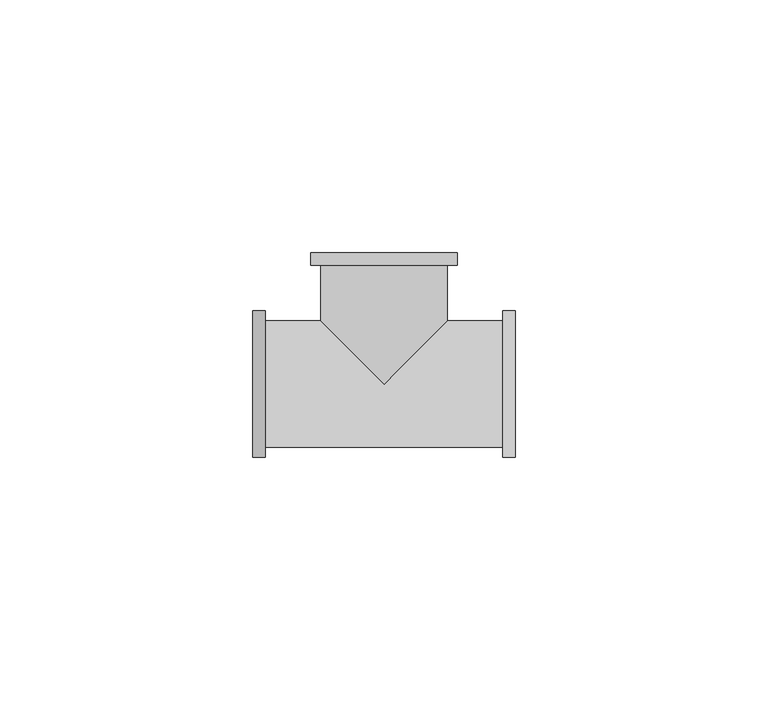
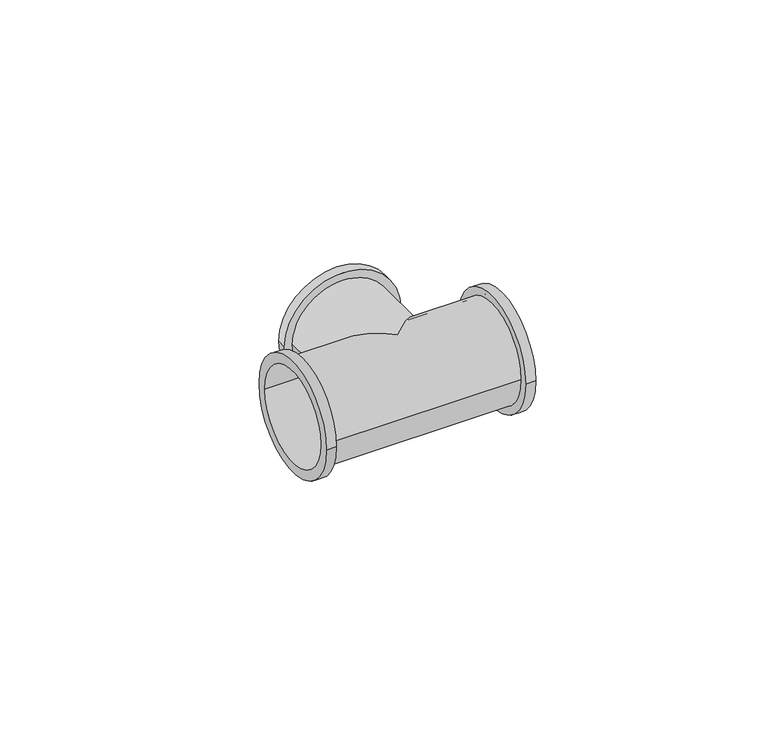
"""IFC4 building model written with IfcOpenShell, lengths in millimetres: pipe fitting geometry, БИР ПЕКС_КМП_Тройник ПЕКС : Тройник ПЕКС_КМП."""

from ifc_helpers import new_model, si_unit, frame, origin, place, context, project, spatial, polyline, circle_curve, ellipse_curve, source, transform, mapped, element, save
from ifc_brep_helpers import plane_surface, cylinder_surface, revolved_surface, advanced_brep


def pipe_fitting_8489761f(model_context):
    return source(origin(), model_context, "Body", "AdvancedBrep", [
        advanced_brep(
        [(-14.5, 26.0, 0.0), (14.5, 26.0, 0.0), (-12.0, 26.0, 0.0), (12.0, 26.0, 0.0), (12.5, 12.5, 0.0), (0.0, 0.0, -12.5), (-12.5, 12.5, 0.0), (-12.5, 23.5, 0.0), (12.5, 23.5, 0.0), (0.0, 0.0, 12.5), (26.0, -14.5, 0.0), (26.0, 14.5, 0.0), (26.0, 12.0, 0.0), (26.0, -12.0, 0.0), (-26.0, -14.5, 0.0), (-26.0, 14.5, 0.0), (-26.0, -12.0, 0.0), (-26.0, 12.0, 0.0), (23.5, 12.5, 0.0), (23.5, -12.5, 0.0), (-23.5, -12.5, 0.0), (-23.5, 12.5, 0.0), (-14.5, 23.5, 0.0), (14.5, 23.5, 0.0), (-23.5, -14.5, 0.0), (-23.5, 14.5, 0.0), (23.5, -14.5, 0.0), (23.5, 14.5, 0.0), (-12.0, 12.0, 0.0), (0.0, 0.0, -12.0), (12.0, 12.0, 0.0), (0.0, 0.0, 12.0)],
        [
            (0, 1, circle_curve(frame((0.0, 26.0, 0.0), z_axis=(0.0, 1.0, 0.0), x_axis=(1.0, 0.0, 0.0)), 14.5)),
            (1, 0, circle_curve(frame((0.0, 26.0, 0.0), z_axis=(0.0, 1.0, 0.0), x_axis=(1.0, 0.0, 0.0)), 14.5)),
            (2, 3, circle_curve(frame((0.0, 26.0, 0.0), z_axis=(0.0, -1.0, 0.0), x_axis=(1.0, 0.0, 0.0)), 12.0)),
            (3, 2, circle_curve(frame((0.0, 26.0, 0.0), z_axis=(0.0, -1.0, 0.0), x_axis=(1.0, 0.0, 0.0)), 12.0)),
            (4, 5, ellipse_curve(frame((0.0, 0.0, 0.0), z_axis=(-0.7071067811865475, 0.7071067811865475, 0.0), x_axis=(-0.7071067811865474, -0.7071067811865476, 0.0)), 17.6776695, 12.5)),
            (5, 6, ellipse_curve(frame((0.0, 0.0, 0.0), z_axis=(0.7071067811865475, 0.7071067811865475, 0.0), x_axis=(0.7071067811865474, -0.7071067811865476, 0.0)), 17.6776695, 12.5)),
            (6, 7),
            (7, 8, circle_curve(frame((0.0, 23.5, 0.0), z_axis=(0.0, -1.0, 0.0), x_axis=(1.0, 0.0, 0.0)), 12.5)),
            (8, 4),
            (9, 4, ellipse_curve(frame((0.0, 0.0, 0.0), z_axis=(-0.7071067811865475, 0.7071067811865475, 0.0), x_axis=(-0.7071067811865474, -0.7071067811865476, 0.0)), 17.6776695, 12.5)),
            (8, 7, circle_curve(frame((0.0, 23.5, 0.0), z_axis=(0.0, -1.0, 0.0), x_axis=(1.0, 0.0, 0.0)), 12.5)),
            (6, 9, ellipse_curve(frame((0.0, 0.0, 0.0), z_axis=(0.7071067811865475, 0.7071067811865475, 0.0), x_axis=(0.7071067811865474, -0.7071067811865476, 0.0)), 17.6776695, 12.5)),
            (10, 11, circle_curve(frame((26.0, 0.0, 0.0), z_axis=(1.0, 0.0, 0.0), x_axis=(0.0, 1.0, 0.0)), 14.5)),
            (11, 10, circle_curve(frame((26.0, 0.0, 0.0), z_axis=(1.0, 0.0, 0.0), x_axis=(0.0, 1.0, 0.0)), 14.5)),
            (12, 13, circle_curve(frame((26.0, 0.0, 0.0), z_axis=(-1.0, 0.0, 0.0), x_axis=(0.0, 1.0, 0.0)), 12.0)),
            (13, 12, circle_curve(frame((26.0, 0.0, 0.0), z_axis=(-1.0, 0.0, 0.0), x_axis=(0.0, 1.0, 0.0)), 12.0)),
            (14, 15, circle_curve(frame((-26.0, 0.0, 0.0), z_axis=(-1.0, 0.0, 0.0), x_axis=(0.0, 1.0, 0.0)), 14.5)),
            (15, 14, circle_curve(frame((-26.0, 0.0, 0.0), z_axis=(-1.0, 0.0, 0.0), x_axis=(0.0, 1.0, 0.0)), 14.5)),
            (16, 17, circle_curve(frame((-26.0, 0.0, 0.0), z_axis=(1.0, 0.0, 0.0), x_axis=(0.0, 1.0, 0.0)), 12.0)),
            (17, 16, circle_curve(frame((-26.0, 0.0, 0.0), z_axis=(1.0, 0.0, 0.0), x_axis=(0.0, 1.0, 0.0)), 12.0)),
            (4, 18),
            (18, 19, circle_curve(frame((23.5, 0.0, 0.0), z_axis=(-1.0, 0.0, 0.0), x_axis=(0.0, 1.0, 0.0)), 12.5)),
            (19, 20),
            (20, 21, circle_curve(frame((-23.5, 0.0, 0.0), z_axis=(1.0, 0.0, 0.0), x_axis=(0.0, 1.0, 0.0)), 12.5)),
            (21, 6),
            (21, 20, circle_curve(frame((-23.5, 0.0, 0.0), z_axis=(1.0, 0.0, 0.0), x_axis=(0.0, 1.0, 0.0)), 12.5)),
            (19, 18, circle_curve(frame((23.5, 0.0, 0.0), z_axis=(-1.0, 0.0, 0.0), x_axis=(0.0, 1.0, 0.0)), 12.5)),
            (22, 23, circle_curve(frame((0.0, 23.5, 0.0), z_axis=(0.0, -1.0, 0.0), x_axis=(1.0, 0.0, 0.0)), 14.5)),
            (23, 22, circle_curve(frame((0.0, 23.5, 0.0), z_axis=(0.0, -1.0, 0.0), x_axis=(1.0, 0.0, 0.0)), 14.5)),
            (22, 0),
            (1, 23),
            (24, 25, circle_curve(frame((-23.5, 0.0, 0.0), z_axis=(1.0, 0.0, 0.0), x_axis=(0.0, 1.0, 0.0)), 14.5)),
            (25, 24, circle_curve(frame((-23.5, 0.0, 0.0), z_axis=(1.0, 0.0, 0.0), x_axis=(0.0, 1.0, 0.0)), 14.5)),
            (15, 25),
            (24, 14),
            (26, 27, circle_curve(frame((23.5, 0.0, 0.0), z_axis=(-1.0, 0.0, 0.0), x_axis=(0.0, 1.0, 0.0)), 14.5)),
            (27, 26, circle_curve(frame((23.5, 0.0, 0.0), z_axis=(-1.0, 0.0, 0.0), x_axis=(0.0, 1.0, 0.0)), 14.5)),
            (10, 26),
            (27, 11),
            (2, 28),
            (28, 29, ellipse_curve(frame((0.0, 0.0, 0.0), z_axis=(-0.7071067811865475, -0.7071067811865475, 0.0), x_axis=(0.7071067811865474, -0.7071067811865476, 0.0)), 16.9705627, 12.0)),
            (29, 30, ellipse_curve(frame((0.0, 0.0, 0.0), z_axis=(0.7071067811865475, -0.7071067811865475, 0.0), x_axis=(-0.7071067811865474, -0.7071067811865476, 0.0)), 16.9705627, 12.0)),
            (30, 3),
            (30, 31, ellipse_curve(frame((0.0, 0.0, 0.0), z_axis=(0.7071067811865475, -0.7071067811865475, 0.0), x_axis=(-0.7071067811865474, -0.7071067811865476, 0.0)), 16.9705627, 12.0)),
            (31, 28, ellipse_curve(frame((0.0, 0.0, 0.0), z_axis=(-0.7071067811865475, -0.7071067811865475, 0.0), x_axis=(0.7071067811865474, -0.7071067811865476, 0.0)), 16.9705627, 12.0)),
            (16, 13),
            (12, 30),
            (28, 17),
        ],
        [
            plane_surface(frame((12.5, 26.0, 0.0), z_axis=(0.0, 1.0, 0.0), x_axis=(0.0, 0.0, -1.0))),
            cylinder_surface(frame((0.0, 26.0, 0.0), z_axis=(0.0, -1.0, 0.0), x_axis=(1.0, 0.0, 0.0)), 12.5),
            plane_surface(frame((26.0, 12.5, 0.0), z_axis=(1.0, 0.0, 0.0), x_axis=(0.0, 0.0, 1.0))),
            plane_surface(frame((-26.0, 12.5, 0.0), z_axis=(-1.0, 0.0, 0.0), x_axis=(0.0, 0.0, -1.0))),
            cylinder_surface(frame((-26.0, 0.0, 0.0), z_axis=(1.0, 0.0, 0.0), x_axis=(0.0, 1.0, 0.0)), 12.5),
            plane_surface(frame((14.5, 23.5, 0.0), z_axis=(0.0, -1.0, 0.0), x_axis=(0.0, 0.0, 1.0))),
            cylinder_surface(frame((0.0, 26.0, 0.0), z_axis=(0.0, -1.0, 0.0), x_axis=(1.0, 0.0, 0.0)), 14.5),
            plane_surface(frame((-23.5, 14.5, 0.0), z_axis=(1.0, 0.0, 0.0), x_axis=(0.0, 0.0, 1.0))),
            cylinder_surface(frame((-23.5, 0.0, 0.0), z_axis=(-1.0, 0.0, 0.0), x_axis=(0.0, 1.0, 0.0)), 14.5),
            plane_surface(frame((23.5, 14.5, 0.0), z_axis=(-1.0, 0.0, 0.0), x_axis=(0.0, 0.0, -1.0))),
            cylinder_surface(frame((23.5, 0.0, 0.0), z_axis=(1.0, 0.0, 0.0), x_axis=(0.0, 1.0, 0.0)), 14.5),
            revolved_surface(polyline([(12.0, -11.999999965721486, 0.0), (12.0, 26.0, 0.0)]), (0.0, 26.0, 0.0), (0.0, -1.0, 0.0)),
            revolved_surface(polyline([(26.0, 12.0, 0.0), (-26.0, 12.0, 0.0)]), (-26.0, 0.0, 0.0), (1.0, 0.0, 0.0)),
        ],
        [
            (0, [[1, 2], [3, 4]]),
            (1, [[5, 6, 7, 8, 9]]),
            (1, [[10, -9, 11, -7, 12]]),
            (2, [[13, 14], [15, 16]]),
            (3, [[17, 18], [19, 20]]),
            (4, [[-5, 21, 22, 23, 24, 25, -6]]),
            (4, [[-10, -12, -25, 26, -23, 27, -21]]),
            (5, [[28, 29], [-8, -11]]),
            (6, [[-28, 30, -2, 31]]),
            (6, [[-29, -31, -1, -30]]),
            (7, [[32, 33], [-24, -26]]),
            (8, [[-18, 34, -32, 35]]),
            (8, [[-17, -35, -33, -34]]),
            (9, [[36, 37], [-22, -27]]),
            (10, [[-13, 38, -37, 39]]),
            (10, [[-14, -39, -36, -38]]),
            (11, [[-3, 40, 41, 42, 43]]),
            (11, [[-4, -43, 44, 45, -40]]),
            (12, [[46, -15, 47, -42, -41, 48, -19]]),
            (12, [[-46, -20, -48, -45, -44, -47, -16]]),
        ],
    ),
    ])


if __name__ == "__main__":
    model = new_model("IFC4")
    model_context = context("Model", 3, world=origin())
    ifc_project = project(units=[si_unit("LENGTHUNIT", "METRE", prefix="MILLI")], contexts=[model_context])
    site = spatial("IfcSite", under=ifc_project)
    building = spatial("IfcBuilding", under=site)
    placement = place(None, origin())
    pipe_fitting_shape = pipe_fitting_8489761f(model_context)
    element("IfcPipeFitting", 1, ObjectType="БИР ПЕКС_КМП_Тройник ПЕКС : Тройник ПЕКС_КМП", at=placement, inside=building, context=model_context, shape_type="MappedRepresentation", body=[
        mapped(pipe_fitting_shape, transform((0.0, 0.0, 0.0), x_axis=(1.0, 0.0, 0.0), y_axis=(0.0, 1.0, 0.0), z_axis=(0.0, 0.0, 1.0))),
    ])
    save(model, "model.ifc")
